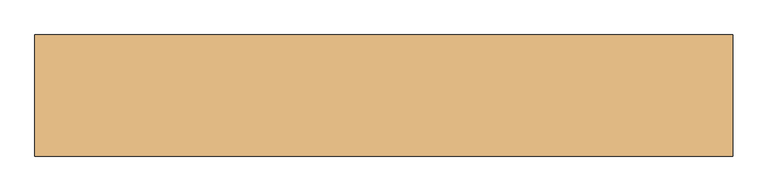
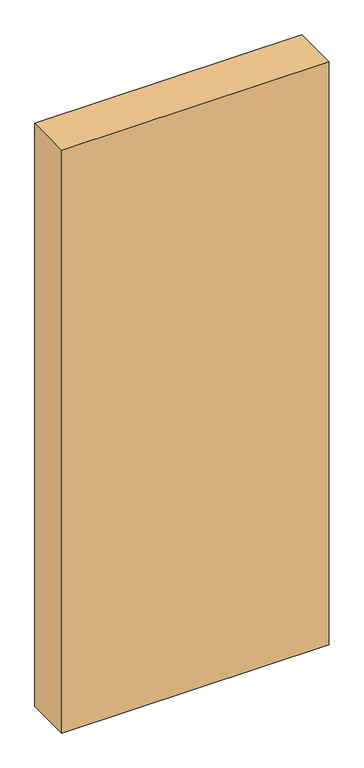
"""IFC4 building model written with IfcOpenShell, lengths in millimetres: door geometry, Dr_Проем-Простой : ДВ."""

from ifc_helpers import new_model, si_unit, frame, origin, place, context, project, spatial, polyline, outline, extrude, source, transform, mapped, element, save


def door_0eb9dd21(model_context):
    return source(origin(), model_context, "Body", "SweptSolid", [
        extrude(outline(polyline([(780.3230163, 100.0), (780.3230163, -100.0), (-369.6769837, -100.0), (-369.6769837, 100.0), (780.3230163, 100.0)])), frame((0.0, 0.0, -250.0), z_axis=(0.0, 0.0, 1.0), x_axis=(1.0, 0.0, 0.0)), (0.0, 0.0, 1.0), 2650.0),
    ])


if __name__ == "__main__":
    model = new_model("IFC4")
    model_context = context("Model", 3, world=origin())
    ifc_project = project(units=[si_unit("LENGTHUNIT", "METRE", prefix="MILLI")], contexts=[model_context])
    site = spatial("IfcSite", under=ifc_project)
    building = spatial("IfcBuilding", under=site)
    placement = place(None, origin())
    door_shape = door_0eb9dd21(model_context)
    element("IfcDoor", 1, ObjectType="Dr_Проем-Простой : ДВ", at=placement, inside=building, context=model_context, shape_type="MappedRepresentation", body=[
        mapped(door_shape, transform((0.0, 0.0, 0.0), x_axis=(1.0, 0.0, 0.0), y_axis=(0.0, 1.0, 0.0), z_axis=(0.0, 0.0, 1.0))),
    ])
    save(model, "model.ifc")
